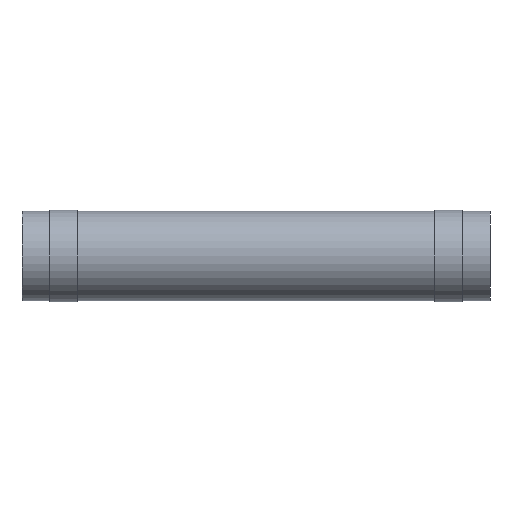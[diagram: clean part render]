
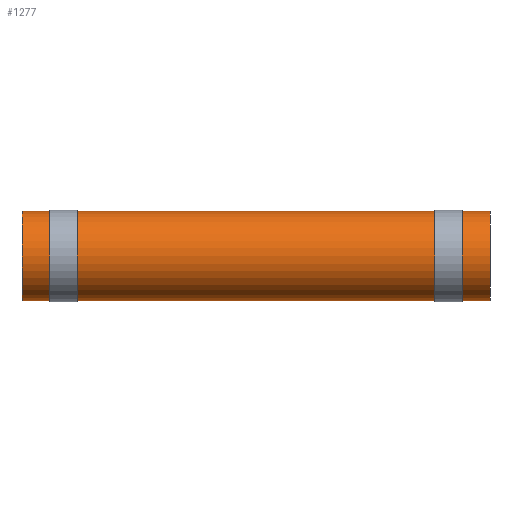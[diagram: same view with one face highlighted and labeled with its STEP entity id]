
A CAD part, front view. The second image highlights one B-rep face of the part: STEP entity #1277.
In plain terms, the highlighted cylindrical face has radius 20.637 mm (diameter 41.275 mm), a partial arc.
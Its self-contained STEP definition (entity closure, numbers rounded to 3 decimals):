
#20 = CARTESIAN_POINT ( 'NONE',  ( -107.95, 0., 0. ) ) ;
#21 = DIRECTION ( 'NONE',  ( 1., 0., 0. ) ) ;
#22 = DIRECTION ( 'NONE',  ( 0., 0., -1. ) ) ;
#43 = CARTESIAN_POINT ( 'NONE',  ( 107.95, 0., -20.637 ) ) ;
#50 = CIRCLE ( 'NONE', #247, 20.637 ) ;
#84 = CARTESIAN_POINT ( 'NONE',  ( 107.95, 0., 20.637 ) ) ;
#85 = DIRECTION ( 'NONE',  ( -1., 0., 0. ) ) ;
#112 = CARTESIAN_POINT ( 'NONE',  ( 107.95, 0., 0. ) ) ;
#113 = DIRECTION ( 'NONE',  ( 1., 0., 0. ) ) ;
#114 = DIRECTION ( 'NONE',  ( 0., 0., -1. ) ) ;
#169 = EDGE_CURVE ( 'NONE', #1016, #612, #394, .T. ) ;
#228 = AXIS2_PLACEMENT_3D ( 'NONE', #112, #113, #114 ) ;
#247 = AXIS2_PLACEMENT_3D ( 'NONE', #20, #21, #22 ) ;
#255 = EDGE_CURVE ( 'NONE', #612, #1017, #538, .T. ) ;
#295 = EDGE_CURVE ( 'NONE', #1016, #1018, #552, .T. ) ;
#301 = AXIS2_PLACEMENT_3D ( 'NONE', #1159, #1158, #1155 ) ;
#315 = EDGE_CURVE ( 'NONE', #1018, #1017, #50, .T. ) ;
#394 = CIRCLE ( 'NONE', #228, 20.637 ) ;
#538 = LINE ( 'NONE', #1249, #542 ) ;
#542 = VECTOR ( 'NONE', #1250, 1000. ) ;
#552 = LINE ( 'NONE', #84, #554 ) ;
#554 = VECTOR ( 'NONE', #85, 1000. ) ;
#612 = VERTEX_POINT ( 'NONE', #43 ) ;
#720 = FACE_OUTER_BOUND ( 'NONE', #1023, .T. ) ;
#728 = CYLINDRICAL_SURFACE ( 'NONE', #301, 20.637 ) ;
#807 = CARTESIAN_POINT ( 'NONE',  ( -107.95, 0., 20.637 ) ) ;
#975 = ORIENTED_EDGE ( 'NONE', *, *, #255, .F. ) ;
#976 = ORIENTED_EDGE ( 'NONE', *, *, #169, .F. ) ;
#977 = ORIENTED_EDGE ( 'NONE', *, *, #295, .T. ) ;
#978 = ORIENTED_EDGE ( 'NONE', *, *, #315, .T. ) ;
#1016 = VERTEX_POINT ( 'NONE', #1442 ) ;
#1017 = VERTEX_POINT ( 'NONE', #1443 ) ;
#1018 = VERTEX_POINT ( 'NONE', #807 ) ;
#1023 = EDGE_LOOP ( 'NONE', ( #975, #976, #977, #978 ) ) ;
#1155 = DIRECTION ( 'NONE',  ( 0., 0., 1. ) ) ;
#1158 = DIRECTION ( 'NONE',  ( -1., 0., 0. ) ) ;
#1159 = CARTESIAN_POINT ( 'NONE',  ( 107.95, 0., 0. ) ) ;
#1249 = CARTESIAN_POINT ( 'NONE',  ( 107.95, 0., -20.637 ) ) ;
#1250 = DIRECTION ( 'NONE',  ( -1., 0., 0. ) ) ;
#1277 = ADVANCED_FACE ( 'NONE', ( #720 ), #728, .T. ) ;
#1442 = CARTESIAN_POINT ( 'NONE',  ( 107.95, 0., 20.637 ) ) ;
#1443 = CARTESIAN_POINT ( 'NONE',  ( -107.95, 0., -20.637 ) ) ;
